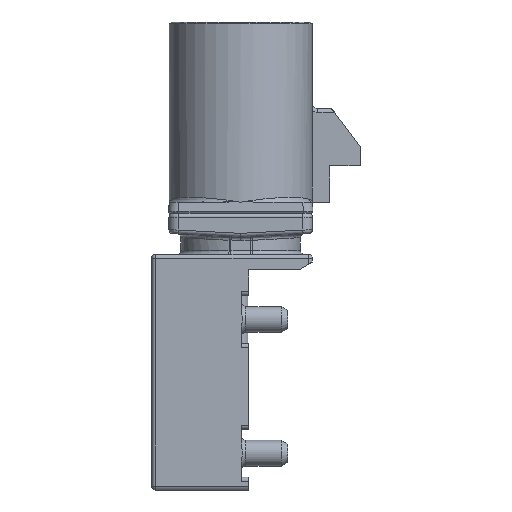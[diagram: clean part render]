
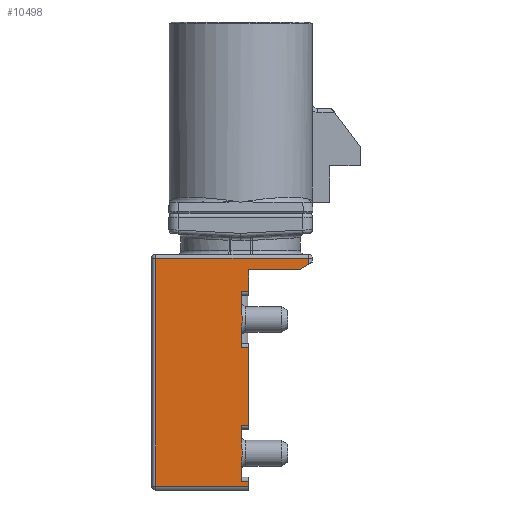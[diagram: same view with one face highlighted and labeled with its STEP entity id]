
A CAD part, left-side view. The second image highlights one B-rep face of the part: STEP entity #10498.
In plain terms, the highlighted planar face has unit normal (-1, 0, 0).
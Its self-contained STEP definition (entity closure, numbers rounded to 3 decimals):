
#1328=CARTESIAN_POINT('',(-7.75,-3.54,-12.665));
#1911=DIRECTION('',(0.,0.,1.));
#1912=VECTOR('',#1911,0.909);
#1913=CARTESIAN_POINT('',(-7.75,-0.02,-17.));
#1914=LINE('',#1913,#1912);
#1924=DIRECTION('',(0.,0.,1.));
#1925=VECTOR('',#1924,0.909);
#1926=CARTESIAN_POINT('',(-7.75,-0.02,-15.009));
#1927=LINE('',#1926,#1925);
#2117=DIRECTION('',(0.,0.,1.));
#2118=VECTOR('',#2117,0.909);
#2119=CARTESIAN_POINT('',(-7.75,-0.02,-22.009));
#2120=LINE('',#2119,#2118);
#2134=DIRECTION('',(0.,0.,1.));
#2135=VECTOR('',#2134,0.909);
#2136=CARTESIAN_POINT('',(-7.75,-0.02,-24.));
#2137=LINE('',#2136,#2135);
#2189=DIRECTION('',(0.,-1.,0.));
#2190=VECTOR('',#2189,0.4);
#2191=CARTESIAN_POINT('',(-7.75,-0.02,-21.1));
#2192=LINE('',#2191,#2190);
#2193=DIRECTION('',(0.,1.,0.));
#2194=VECTOR('',#2193,0.4);
#2195=CARTESIAN_POINT('',(-7.75,-0.42,-24.));
#2196=LINE('',#2195,#2194);
#2197=DIRECTION('',(0.,0.,-1.));
#2198=VECTOR('',#2197,0.27);
#2199=CARTESIAN_POINT('',(-7.75,-0.42,-24.));
#2200=LINE('',#2199,#2198);
#2201=DIRECTION('',(0.,-1.,0.));
#2202=VECTOR('',#2201,4.87);
#2203=CARTESIAN_POINT('',(-7.75,4.45,-24.27));
#2204=LINE('',#2203,#2202);
#2205=DIRECTION('',(0.,0.,-1.));
#2206=VECTOR('',#2205,11.92);
#2207=CARTESIAN_POINT('',(-7.75,4.45,-12.35));
#2208=LINE('',#2207,#2206);
#2209=DIRECTION('',(0.,1.,0.));
#2210=VECTOR('',#2209,7.99);
#2211=CARTESIAN_POINT('',(-7.75,-3.54,-12.35));
#2212=LINE('',#2211,#2210);
#2213=DIRECTION('',(0.,0.,1.));
#2214=VECTOR('',#2213,0.315);
#2215=CARTESIAN_POINT('',(-7.75,-3.54,-12.665));
#2216=LINE('',#2215,#2214);
#2217=DIRECTION('',(0.,0.866,-0.5));
#2218=VECTOR('',#2217,0.569);
#2219=CARTESIAN_POINT('',(-7.75,-3.54,-12.665));
#2220=LINE('',#2219,#2218);
#2221=DIRECTION('',(0.,1.,0.));
#2222=VECTOR('',#2221,2.627);
#2223=CARTESIAN_POINT('',(-7.75,-3.047,-12.95));
#2224=LINE('',#2223,#2222);
#2225=DIRECTION('',(0.,0.,-1.));
#2226=VECTOR('',#2225,1.15);
#2227=CARTESIAN_POINT('',(-7.75,-0.42,-12.95));
#2228=LINE('',#2227,#2226);
#2229=DIRECTION('',(0.,-1.,0.));
#2230=VECTOR('',#2229,0.4);
#2231=CARTESIAN_POINT('',(-7.75,-0.02,-14.1));
#2232=LINE('',#2231,#2230);
#2233=DIRECTION('',(0.,1.,0.));
#2234=VECTOR('',#2233,0.4);
#2235=CARTESIAN_POINT('',(-7.75,-0.42,-17.));
#2236=LINE('',#2235,#2234);
#2237=DIRECTION('',(0.,0.,-1.));
#2238=VECTOR('',#2237,4.1);
#2239=CARTESIAN_POINT('',(-7.75,-0.42,-17.));
#2240=LINE('',#2239,#2238);
#2922=CARTESIAN_POINT('',(-7.75,-0.02,-23.091));
#2923=CARTESIAN_POINT('',(-7.75,-0.02,-23.054));
#2924=CARTESIAN_POINT('',(-7.75,-0.026,
-22.977));
#2925=CARTESIAN_POINT('',(-7.75,-0.049,
-22.848));
#2926=CARTESIAN_POINT('',(-7.75,-0.073,
-22.736));
#2927=CARTESIAN_POINT('',(-7.75,-0.088,
-22.638));
#2928=CARTESIAN_POINT('',(-7.75,-0.093,
-22.55));
#2929=CARTESIAN_POINT('',(-7.75,-0.088,
-22.462));
#2930=CARTESIAN_POINT('',(-7.75,-0.073,
-22.364));
#2931=CARTESIAN_POINT('',(-7.75,-0.049,
-22.252));
#2932=CARTESIAN_POINT('',(-7.75,-0.026,
-22.123));
#2933=CARTESIAN_POINT('',(-7.75,-0.02,-22.046));
#2934=CARTESIAN_POINT('',(-7.75,-0.02,-22.009));
#3001=CARTESIAN_POINT('',(-7.75,-0.02,-16.091));
#3002=CARTESIAN_POINT('',(-7.75,-0.02,-16.054));
#3003=CARTESIAN_POINT('',(-7.75,-0.026,
-15.977));
#3004=CARTESIAN_POINT('',(-7.75,-0.049,
-15.848));
#3005=CARTESIAN_POINT('',(-7.75,-0.073,
-15.736));
#3006=CARTESIAN_POINT('',(-7.75,-0.088,
-15.638));
#3007=CARTESIAN_POINT('',(-7.75,-0.093,
-15.55));
#3008=CARTESIAN_POINT('',(-7.75,-0.088,
-15.462));
#3009=CARTESIAN_POINT('',(-7.75,-0.073,
-15.364));
#3010=CARTESIAN_POINT('',(-7.75,-0.049,
-15.252));
#3011=CARTESIAN_POINT('',(-7.75,-0.026,
-15.123));
#3012=CARTESIAN_POINT('',(-7.75,-0.02,-15.046));
#3013=CARTESIAN_POINT('',(-7.75,-0.02,-15.009));
#6629=CARTESIAN_POINT('',(-7.75,-3.047,-12.95));
#6630=CARTESIAN_POINT('',(-7.75,-0.42,-12.95));
#6631=VERTEX_POINT('',#6629);
#6632=VERTEX_POINT('',#6630);
#6700=CARTESIAN_POINT('',(-7.75,-0.02,-22.009));
#6702=VERTEX_POINT('',#6700);
#6703=CARTESIAN_POINT('',(-7.75,-0.02,-23.091));
#6705=VERTEX_POINT('',#6703);
#6716=CARTESIAN_POINT('',(-7.75,-0.02,-15.009));
#6718=VERTEX_POINT('',#6716);
#6719=CARTESIAN_POINT('',(-7.75,-0.02,-16.091));
#6721=VERTEX_POINT('',#6719);
#6743=CARTESIAN_POINT('',(-7.75,-0.42,-21.1));
#6745=VERTEX_POINT('',#6743);
#6749=CARTESIAN_POINT('',(-7.75,-0.02,-21.1));
#6750=VERTEX_POINT('',#6749);
#6763=CARTESIAN_POINT('',(-7.75,-0.42,-24.));
#6764=VERTEX_POINT('',#6763);
#6765=CARTESIAN_POINT('',(-7.75,-0.02,-24.));
#6766=VERTEX_POINT('',#6765);
#6779=CARTESIAN_POINT('',(-7.75,-0.42,-17.));
#6780=VERTEX_POINT('',#6779);
#6781=CARTESIAN_POINT('',(-7.75,-0.02,-17.));
#6782=VERTEX_POINT('',#6781);
#6791=CARTESIAN_POINT('',(-7.75,-0.42,-14.1));
#6793=VERTEX_POINT('',#6791);
#6797=CARTESIAN_POINT('',(-7.75,-0.02,-14.1));
#6798=VERTEX_POINT('',#6797);
#6839=CARTESIAN_POINT('',(-7.75,-0.42,-24.27));
#6841=VERTEX_POINT('',#6839);
#6845=CARTESIAN_POINT('',(-7.75,4.45,-24.27));
#6846=VERTEX_POINT('',#6845);
#6851=CARTESIAN_POINT('',(-7.75,-3.54,-12.35));
#6852=CARTESIAN_POINT('',(-7.75,4.45,-12.35));
#6853=VERTEX_POINT('',#6851);
#6854=VERTEX_POINT('',#6852);
#6878=VERTEX_POINT('',#1328);
#10466=CARTESIAN_POINT('',(-7.75,0.,0.));
#10467=DIRECTION('',(1.,0.,0.));
#10468=DIRECTION('',(0.,0.,-1.));
#10469=AXIS2_PLACEMENT_3D('',#10466,#10467,#10468);
#10470=PLANE('',#10469);
#10472=ORIENTED_EDGE('',*,*,#10471,.F.);
#10473=ORIENTED_EDGE('',*,*,#10377,.F.);
#10475=ORIENTED_EDGE('',*,*,#10474,.F.);
#10476=ORIENTED_EDGE('',*,*,#10399,.F.);
#10478=ORIENTED_EDGE('',*,*,#10477,.F.);
#10479=ORIENTED_EDGE('',*,*,#9618,.T.);
#10480=ORIENTED_EDGE('',*,*,#9601,.F.);
#10481=ORIENTED_EDGE('',*,*,#9531,.F.);
#10482=ORIENTED_EDGE('',*,*,#9363,.F.);
#10483=ORIENTED_EDGE('',*,*,#9390,.F.);
#10484=ORIENTED_EDGE('',*,*,#9409,.T.);
#10486=ORIENTED_EDGE('',*,*,#10485,.T.);
#10487=ORIENTED_EDGE('',*,*,#10078,.T.);
#10488=ORIENTED_EDGE('',*,*,#10138,.F.);
#10489=ORIENTED_EDGE('',*,*,#10167,.F.);
#10491=ORIENTED_EDGE('',*,*,#10490,.F.);
#10492=ORIENTED_EDGE('',*,*,#10152,.F.);
#10494=ORIENTED_EDGE('',*,*,#10493,.F.);
#10495=ORIENTED_EDGE('',*,*,#10304,.T.);
#10496=EDGE_LOOP('',(#10472,#10473,#10475,#10476,#10478,#10479,#10480,#10481,
#10482,#10483,#10484,#10486,#10487,#10488,#10489,#10491,#10492,#10494,#10495));
#10497=FACE_OUTER_BOUND('',#10496,.F.);
#2935=B_SPLINE_CURVE_WITH_KNOTS('',3,(#2922,#2923,#2924,#2925,#2926,#2927,#2928,
#2929,#2930,#2931,#2932,#2933,#2934),.UNSPECIFIED.,.F.,.F.,(4,1,1,1,1,1,1,1,1,1,
4),(0.,0.1,0.2,0.3,0.4,0.5,0.6,0.7,0.8,0.9,1.),
.UNSPECIFIED.);
#3014=B_SPLINE_CURVE_WITH_KNOTS('',3,(#3001,#3002,#3003,#3004,#3005,#3006,#3007,
#3008,#3009,#3010,#3011,#3012,#3013),.UNSPECIFIED.,.F.,.F.,(4,1,1,1,1,1,1,1,1,1,
4),(0.,0.1,0.2,0.3,0.4,0.5,0.6,0.7,0.8,0.9,1.),
.UNSPECIFIED.);
#9363=EDGE_CURVE('',#6853,#6854,#2212,.T.);
#9390=EDGE_CURVE('',#6878,#6853,#2216,.T.);
#9409=EDGE_CURVE('',#6878,#6631,#2220,.T.);
#9531=EDGE_CURVE('',#6854,#6846,#2208,.T.);
#9601=EDGE_CURVE('',#6846,#6841,#2204,.T.);
#9618=EDGE_CURVE('',#6764,#6841,#2200,.T.);
#10078=EDGE_CURVE('',#6632,#6793,#2228,.T.);
#10138=EDGE_CURVE('',#6798,#6793,#2232,.T.);
#10152=EDGE_CURVE('',#6782,#6721,#1914,.T.);
#10167=EDGE_CURVE('',#6718,#6798,#1927,.T.);
#10304=EDGE_CURVE('',#6780,#6745,#2240,.T.);
#10377=EDGE_CURVE('',#6702,#6750,#2120,.T.);
#10399=EDGE_CURVE('',#6766,#6705,#2137,.T.);
#10471=EDGE_CURVE('',#6750,#6745,#2192,.T.);
#10474=EDGE_CURVE('',#6705,#6702,#2935,.T.);
#10477=EDGE_CURVE('',#6764,#6766,#2196,.T.);
#10485=EDGE_CURVE('',#6631,#6632,#2224,.T.);
#10490=EDGE_CURVE('',#6721,#6718,#3014,.T.);
#10493=EDGE_CURVE('',#6780,#6782,#2236,.T.);
#10498=ADVANCED_FACE('',(#10497),#10470,.F.);
